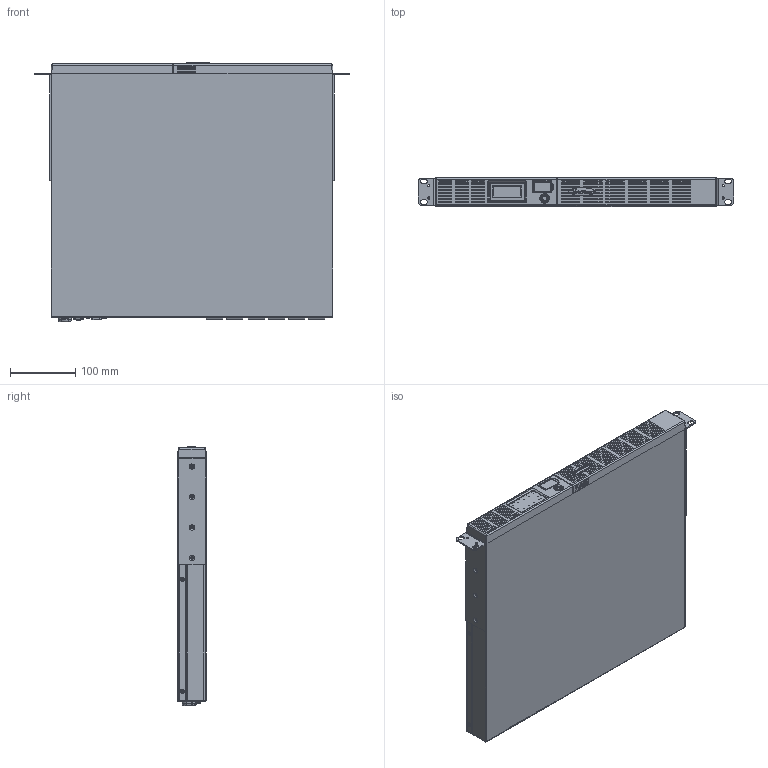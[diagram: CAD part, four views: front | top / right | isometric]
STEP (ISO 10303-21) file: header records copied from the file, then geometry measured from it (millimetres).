
FILE_DESCRIPTION (( 'STEP AP203' ), '1' );
FILE_NAME ('OR1000LCDRM1U.STEP', '2018-08-03T03:04:56', ( 'admin' ), ( '' ), 'SwSTEP 2.0', 'SolidWorks 2016', '' );
FILE_SCHEMA (( 'CONFIG_CONTROL_DESIGN' ));
Products named in the file (1): OR1000LCDRM1U
Bounding box: 484 x 44 x 398.99 mm (x, y, z)
Volume: 7240505.5 mm3; surface area: 1040451.7 mm2
Topology: 12 solids, 43 shells, 4732 faces, 12837 edges, 8333 vertices
Faces by surface type: plane 3482, cylinder 797, cone 229, bspline 141, torus 49, sphere 34
Entity records: 176199 total; most frequent: CARTESIAN_POINT 58962, ORIENTED_EDGE 25622, DIRECTION 22273, EDGE_CURVE 12811, LINE 9301, VECTOR 9301, VERTEX_POINT 8326, AXIS2_PLACEMENT_3D 6486
